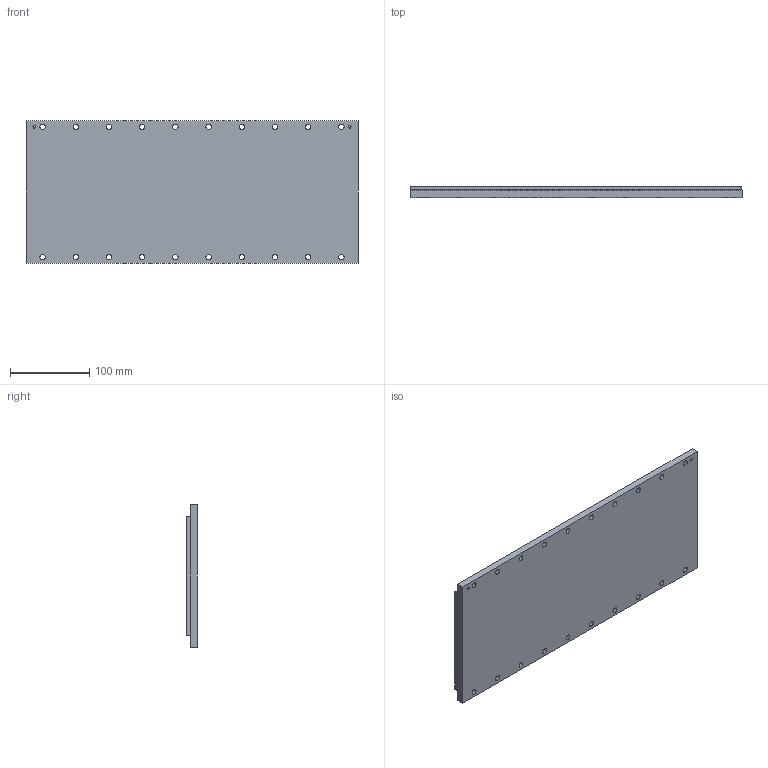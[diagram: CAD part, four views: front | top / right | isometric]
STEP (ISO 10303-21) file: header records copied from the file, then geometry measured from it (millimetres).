
FILE_DESCRIPTION (( 'STEP AP214' ), '1' );
FILE_NAME ('PIXM350-180-TL420-C.step', '2021-11-01T10:03:06', ( '' ), ( '' ), 'SwSTEP 2.0', 'SolidWorks 2020', '' );
FILE_SCHEMA (( 'AUTOMOTIVE_DESIGN' ));
Length unit declared in the file: millimetre
Products named in the file (1): PIXM350-180-TL420-C
Bounding box: 420 x 13.8 x 180 mm (x, y, z)
Volume: 971368.6 mm3; surface area: 429001.1 mm2
Topology: 3 solids, 3 shells, 149 faces, 350 edges, 228 vertices
Faces by surface type: cylinder 88, plane 61
Entity records: 6111 total; most frequent: DIRECTION 826, CARTESIAN_POINT 728, ORIENTED_EDGE 700, EDGE_CURVE 350, AXIS2_PLACEMENT_3D 326, VERTEX_POINT 228, EDGE_LOOP 214, CIRCLE 176
